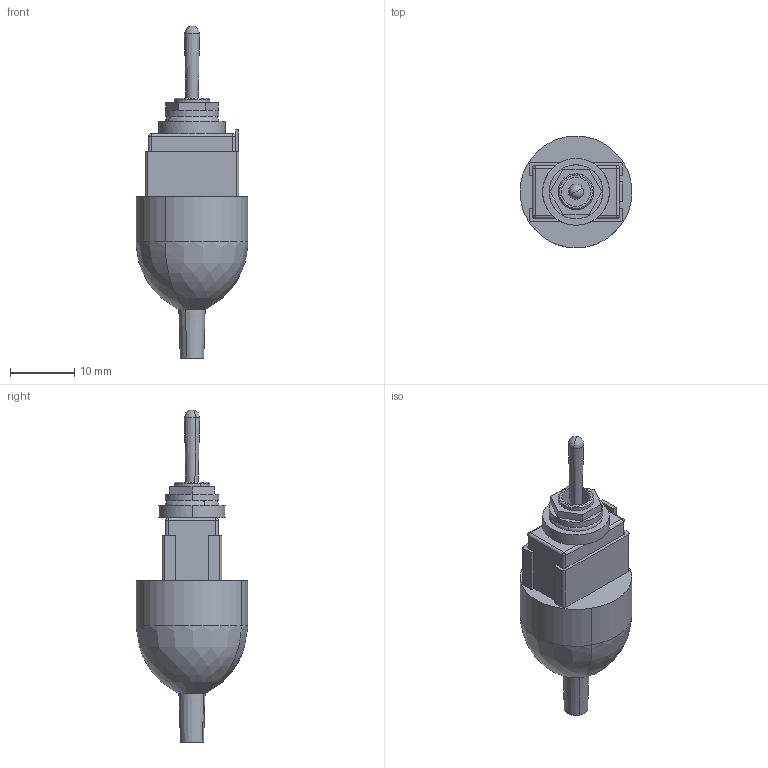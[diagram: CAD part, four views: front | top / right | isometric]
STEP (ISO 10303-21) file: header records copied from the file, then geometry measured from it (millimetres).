
FILE_DESCRIPTION(('CATIA V5 STEP Exchange'),'2;1');
FILE_NAME('Z:\00_Public\Jesus_Share\Florian support CAD\Pole Switch\Pole Switch.stp','2014-04-04T12:20:23+00:00',('none'),('none'),'CATIA Version 5 Release 19 SP 9 (IN-10)','CATIA V5 STEP AP214','none');
FILE_SCHEMA(('AUTOMOTIVE_DESIGN { 1 0 10303 214 1 1 1 1 }'));
Length unit declared in the file: millimetre
Products named in the file (5): Pole Switch; Pole_Switch; Boot_Solid; Washer_OnOff; Nut_OnOff
Assembly tree (4 placements, depth 2):
  Pole Switch
    Pole_Switch
    Boot_Solid
    Washer_OnOff
    Nut_OnOff
Bounding box: 17.35 x 17.35 x 51.48 mm (x, y, z)
Volume: 4892.1 mm3; surface area: 2594.3 mm2
Topology: 5 solids, 5 shells, 96 faces, 226 edges, 137 vertices
Faces by surface type: plane 44, cylinder 30, torus 8, cone 6, sphere 6, revolution 2
Entity records: 2666 total; most frequent: CARTESIAN_POINT 500, ORIENTED_EDGE 440, DIRECTION 364, EDGE_CURVE 220, AXIS2_PLACEMENT_3D 167, VERTEX_POINT 137, VECTOR 122, LINE 122
